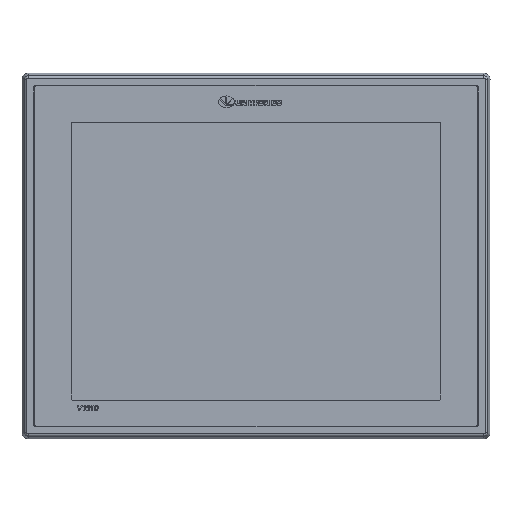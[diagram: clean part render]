
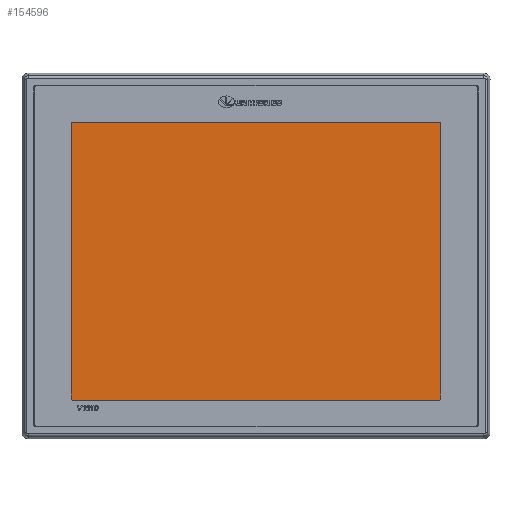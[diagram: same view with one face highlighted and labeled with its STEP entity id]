
A CAD part, top view. The second image highlights one B-rep face of the part: STEP entity #154596.
In plain terms, the highlighted planar face has unit normal (0, 0, 1).
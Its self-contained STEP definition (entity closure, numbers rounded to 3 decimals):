
#1676 = LINE ( 'NONE', #158575, #95272 ) ;
#4341 = VERTEX_POINT ( 'NONE', #159960 ) ;
#4656 = VECTOR ( 'NONE', #153478, 1000. ) ;
#5039 = EDGE_CURVE ( 'NONE', #50379, #56619, #128636, .T. ) ;
#5421 = VERTEX_POINT ( 'NONE', #196209 ) ;
#6365 = CIRCLE ( 'NONE', #164967, 0.673 ) ;
#8720 = DIRECTION ( 'NONE',  ( 0., 0., 1. ) ) ;
#15114 = CIRCLE ( 'NONE', #22375, 0.673 ) ;
#22375 = AXIS2_PLACEMENT_3D ( 'NONE', #160075, #8720, #42616 ) ;
#26635 = ORIENTED_EDGE ( 'NONE', *, *, #5039, .T. ) ;
#27607 = DIRECTION ( 'NONE',  ( 1., 0., 0. ) ) ;
#27953 = EDGE_CURVE ( 'NONE', #56619, #109303, #15114, .T. ) ;
#29665 = EDGE_CURVE ( 'NONE', #5421, #165881, #134326, .T. ) ;
#41032 = ORIENTED_EDGE ( 'NONE', *, *, #29665, .T. ) ;
#41717 = PLANE ( 'NONE',  #102775 ) ;
#42616 = DIRECTION ( 'NONE',  ( 1., 0., 0. ) ) ;
#48448 = LINE ( 'NONE', #117312, #70580 ) ;
#48528 = CARTESIAN_POINT ( 'NONE',  ( 32.883, 211.105, 59. ) ) ;
#50379 = VERTEX_POINT ( 'NONE', #94508 ) ;
#51067 = DIRECTION ( 'NONE',  ( 1., 0., 0. ) ) ;
#56250 = VERTEX_POINT ( 'NONE', #160822 ) ;
#56619 = VERTEX_POINT ( 'NONE', #204500 ) ;
#59731 = DIRECTION ( 'NONE',  ( 0., 0., 1. ) ) ;
#68389 = EDGE_CURVE ( 'NONE', #127675, #50379, #97569, .T. ) ;
#70580 = VECTOR ( 'NONE', #100367, 1000. ) ;
#74485 = FACE_OUTER_BOUND ( 'NONE', #120131, .T. ) ;
#75624 = DIRECTION ( 'NONE',  ( 0., 1., 0. ) ) ;
#78369 = EDGE_CURVE ( 'NONE', #109303, #4341, #1676, .T. ) ;
#84568 = CARTESIAN_POINT ( 'NONE',  ( 33.556, 211.105, 59. ) ) ;
#90414 = CARTESIAN_POINT ( 'NONE',  ( 32.883, 26.605, 59. ) ) ;
#91481 = EDGE_CURVE ( 'NONE', #56250, #127675, #48448, .T. ) ;
#94508 = CARTESIAN_POINT ( 'NONE',  ( 280.23, 26.605, 59. ) ) ;
#95272 = VECTOR ( 'NONE', #107755, 1000. ) ;
#97569 = CIRCLE ( 'NONE', #108383, 0.673 ) ;
#99705 = CIRCLE ( 'NONE', #168215, 0.673 ) ;
#100367 = DIRECTION ( 'NONE',  ( 1., 0., 0. ) ) ;
#102009 = ORIENTED_EDGE ( 'NONE', *, *, #177958, .T. ) ;
#102775 = AXIS2_PLACEMENT_3D ( 'NONE', #214486, #59731, #198660 ) ;
#107755 = DIRECTION ( 'NONE',  ( -1., 0., 0. ) ) ;
#108383 = AXIS2_PLACEMENT_3D ( 'NONE', #180081, #212894, #27607 ) ;
#109303 = VERTEX_POINT ( 'NONE', #210265 ) ;
#117312 = CARTESIAN_POINT ( 'NONE',  ( 33.556, 25.931, 59. ) ) ;
#120131 = EDGE_LOOP ( 'NONE', ( #129729, #218049, #102009, #41032, #145656, #186467, #199660, #26635 ) ) ;
#121768 = DIRECTION ( 'NONE',  ( 0., 0., 1. ) ) ;
#127675 = VERTEX_POINT ( 'NONE', #161076 ) ;
#128636 = LINE ( 'NONE', #212310, #221186 ) ;
#129729 = ORIENTED_EDGE ( 'NONE', *, *, #27953, .T. ) ;
#134326 = LINE ( 'NONE', #48528, #4656 ) ;
#139108 = DIRECTION ( 'NONE',  ( 0., 0., 1. ) ) ;
#145656 = ORIENTED_EDGE ( 'NONE', *, *, #196380, .T. ) ;
#153478 = DIRECTION ( 'NONE',  ( 0., -1., 0. ) ) ;
#154596 = ADVANCED_FACE ( 'NONE', ( #74485 ), #41717, .T. ) ;
#158575 = CARTESIAN_POINT ( 'NONE',  ( 33.556, 211.778, 59. ) ) ;
#159960 = CARTESIAN_POINT ( 'NONE',  ( 33.556, 211.778, 59. ) ) ;
#160075 = CARTESIAN_POINT ( 'NONE',  ( 279.556, 211.105, 59. ) ) ;
#160822 = CARTESIAN_POINT ( 'NONE',  ( 33.556, 25.931, 59. ) ) ;
#161076 = CARTESIAN_POINT ( 'NONE',  ( 279.556, 25.931, 59. ) ) ;
#164967 = AXIS2_PLACEMENT_3D ( 'NONE', #84568, #121768, #207664 ) ;
#165881 = VERTEX_POINT ( 'NONE', #90414 ) ;
#168215 = AXIS2_PLACEMENT_3D ( 'NONE', #188857, #139108, #51067 ) ;
#177958 = EDGE_CURVE ( 'NONE', #4341, #5421, #6365, .T. ) ;
#180081 = CARTESIAN_POINT ( 'NONE',  ( 279.556, 26.605, 59. ) ) ;
#186467 = ORIENTED_EDGE ( 'NONE', *, *, #91481, .T. ) ;
#188857 = CARTESIAN_POINT ( 'NONE',  ( 33.556, 26.605, 59. ) ) ;
#196209 = CARTESIAN_POINT ( 'NONE',  ( 32.883, 211.105, 59. ) ) ;
#196380 = EDGE_CURVE ( 'NONE', #165881, #56250, #99705, .T. ) ;
#198660 = DIRECTION ( 'NONE',  ( 1., 0., 0. ) ) ;
#199660 = ORIENTED_EDGE ( 'NONE', *, *, #68389, .T. ) ;
#204500 = CARTESIAN_POINT ( 'NONE',  ( 280.23, 211.105, 59. ) ) ;
#207664 = DIRECTION ( 'NONE',  ( 1., 0., 0. ) ) ;
#210265 = CARTESIAN_POINT ( 'NONE',  ( 279.556, 211.778, 59. ) ) ;
#212310 = CARTESIAN_POINT ( 'NONE',  ( 280.23, 211.105, 59. ) ) ;
#212894 = DIRECTION ( 'NONE',  ( 0., 0., 1. ) ) ;
#214486 = CARTESIAN_POINT ( 'NONE',  ( 33.556, 211.105, 59. ) ) ;
#218049 = ORIENTED_EDGE ( 'NONE', *, *, #78369, .T. ) ;
#221186 = VECTOR ( 'NONE', #75624, 1000. ) ;
